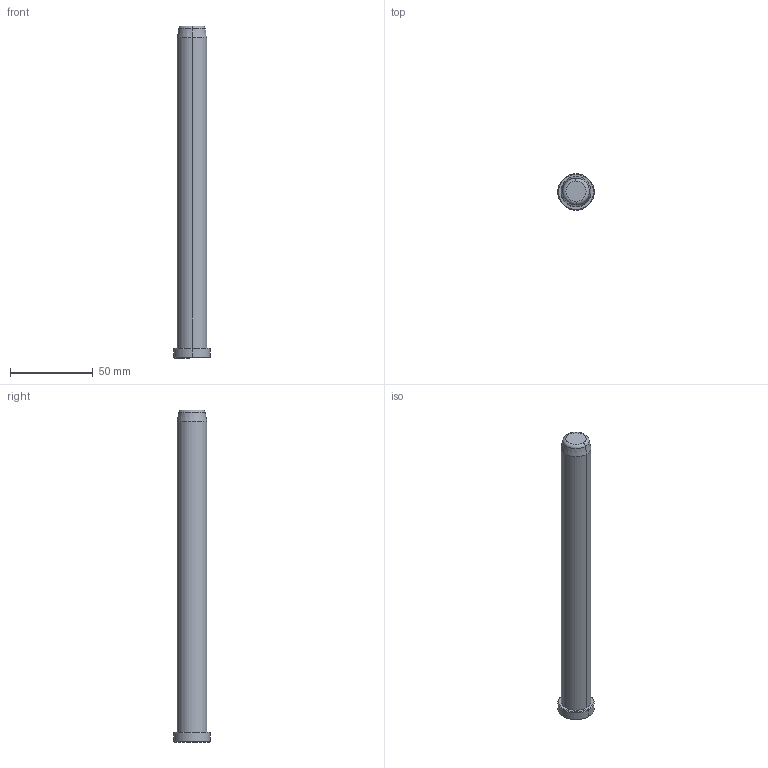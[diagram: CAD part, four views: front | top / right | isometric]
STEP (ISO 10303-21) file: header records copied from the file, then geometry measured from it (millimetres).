
FILE_DESCRIPTION((''),'2;1');
FILE_NAME('B81818200','2018-01-06T',('MANU'),(''),'PRO/ENGINEER BY PARAMETRIC TECHNOLOGY CORPORATION, 2012130','PRO/ENGINEER BY PARAMETRIC TECHNOLOGY CORPORATION, 2012130','');
FILE_SCHEMA(('CONFIG_CONTROL_DESIGN'));
Length unit declared in the file: millimetre
Products named in the file (1): B81818200
Bounding box: 22 x 22 x 200 mm (x, y, z)
Volume: 51371.2 mm3; surface area: 11988.9 mm2
Topology: 1 solids, 1 shells, 15 faces, 28 edges, 16 vertices
Faces by surface type: cone 6, cylinder 4, plane 3, torus 2
Entity records: 414 total; most frequent: DIRECTION 76, CARTESIAN_POINT 59, ORIENTED_EDGE 56, AXIS2_PLACEMENT_3D 33, EDGE_CURVE 28, CIRCLE 18, VERTEX_POINT 16, EDGE_LOOP 16
